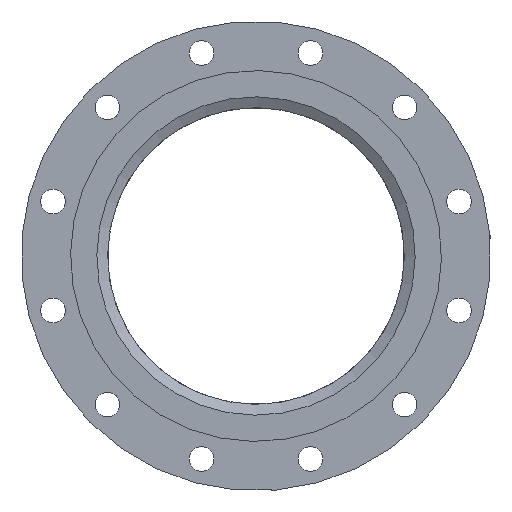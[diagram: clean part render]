
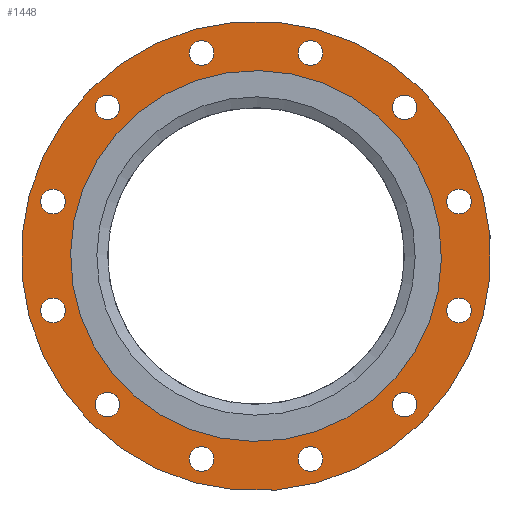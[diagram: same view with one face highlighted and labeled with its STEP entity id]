
A CAD part, front view. The second image highlights one B-rep face of the part: STEP entity #1448.
In plain terms, the highlighted planar face has unit normal (0, -1, 0).
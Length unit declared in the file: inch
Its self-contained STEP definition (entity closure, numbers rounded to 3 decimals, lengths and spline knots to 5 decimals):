
#50=PLANE('',#1590);
#128=FACE_BOUND('',#413,.T.);
#129=FACE_BOUND('',#414,.T.);
#130=FACE_BOUND('',#415,.T.);
#131=FACE_BOUND('',#416,.T.);
#132=FACE_BOUND('',#417,.T.);
#133=FACE_BOUND('',#418,.T.);
#134=FACE_BOUND('',#419,.T.);
#135=FACE_BOUND('',#420,.T.);
#136=FACE_BOUND('',#421,.T.);
#137=FACE_BOUND('',#422,.T.);
#138=FACE_BOUND('',#423,.T.);
#139=FACE_BOUND('',#424,.T.);
#140=FACE_BOUND('',#425,.T.);
#261=FACE_OUTER_BOUND('',#412,.T.);
#412=EDGE_LOOP('',(#1077));
#413=EDGE_LOOP('',(#1078));
#414=EDGE_LOOP('',(#1079));
#415=EDGE_LOOP('',(#1080));
#416=EDGE_LOOP('',(#1081));
#417=EDGE_LOOP('',(#1082));
#418=EDGE_LOOP('',(#1083));
#419=EDGE_LOOP('',(#1084));
#420=EDGE_LOOP('',(#1085));
#421=EDGE_LOOP('',(#1086));
#422=EDGE_LOOP('',(#1087));
#423=EDGE_LOOP('',(#1088));
#424=EDGE_LOOP('',(#1089));
#425=EDGE_LOOP('',(#1090));
#649=CIRCLE('',#1591,9.5);
#650=CIRCLE('',#1592,0.5);
#651=CIRCLE('',#1593,0.5);
#652=CIRCLE('',#1594,0.5);
#653=CIRCLE('',#1595,0.5);
#654=CIRCLE('',#1596,0.5);
#655=CIRCLE('',#1597,0.5);
#656=CIRCLE('',#1598,0.5);
#657=CIRCLE('',#1599,0.5);
#658=CIRCLE('',#1600,0.5);
#659=CIRCLE('',#1601,0.5);
#660=CIRCLE('',#1602,0.5);
#661=CIRCLE('',#1603,0.5);
#662=CIRCLE('',#1604,7.5);
#782=VERTEX_POINT('',#2351);
#783=VERTEX_POINT('',#2353);
#784=VERTEX_POINT('',#2355);
#785=VERTEX_POINT('',#2357);
#786=VERTEX_POINT('',#2359);
#787=VERTEX_POINT('',#2361);
#788=VERTEX_POINT('',#2363);
#789=VERTEX_POINT('',#2365);
#790=VERTEX_POINT('',#2367);
#791=VERTEX_POINT('',#2369);
#792=VERTEX_POINT('',#2371);
#793=VERTEX_POINT('',#2373);
#794=VERTEX_POINT('',#2375);
#795=VERTEX_POINT('',#2377);
#915=EDGE_CURVE('',#782,#782,#649,.T.);
#916=EDGE_CURVE('',#783,#783,#650,.T.);
#917=EDGE_CURVE('',#784,#784,#651,.T.);
#918=EDGE_CURVE('',#785,#785,#652,.T.);
#919=EDGE_CURVE('',#786,#786,#653,.T.);
#920=EDGE_CURVE('',#787,#787,#654,.T.);
#921=EDGE_CURVE('',#788,#788,#655,.T.);
#922=EDGE_CURVE('',#789,#789,#656,.T.);
#923=EDGE_CURVE('',#790,#790,#657,.T.);
#924=EDGE_CURVE('',#791,#791,#658,.T.);
#925=EDGE_CURVE('',#792,#792,#659,.T.);
#926=EDGE_CURVE('',#793,#793,#660,.T.);
#927=EDGE_CURVE('',#794,#794,#661,.T.);
#928=EDGE_CURVE('',#795,#795,#662,.T.);
#1077=ORIENTED_EDGE('',*,*,#915,.T.);
#1078=ORIENTED_EDGE('',*,*,#916,.T.);
#1079=ORIENTED_EDGE('',*,*,#917,.T.);
#1080=ORIENTED_EDGE('',*,*,#918,.T.);
#1081=ORIENTED_EDGE('',*,*,#919,.T.);
#1082=ORIENTED_EDGE('',*,*,#920,.T.);
#1083=ORIENTED_EDGE('',*,*,#921,.T.);
#1084=ORIENTED_EDGE('',*,*,#922,.T.);
#1085=ORIENTED_EDGE('',*,*,#923,.T.);
#1086=ORIENTED_EDGE('',*,*,#924,.T.);
#1087=ORIENTED_EDGE('',*,*,#925,.T.);
#1088=ORIENTED_EDGE('',*,*,#926,.T.);
#1089=ORIENTED_EDGE('',*,*,#927,.T.);
#1090=ORIENTED_EDGE('',*,*,#928,.F.);
#1448=ADVANCED_FACE('',(#261,#128,#129,#130,#131,#132,#133,#134,#135,#136,
#137,#138,#139,#140),#50,.T.);
#1590=AXIS2_PLACEMENT_3D('',#2350,#1883,#1884);
#1591=AXIS2_PLACEMENT_3D('',#2352,#1885,#1886);
#1592=AXIS2_PLACEMENT_3D('',#2354,#1887,#1888);
#1593=AXIS2_PLACEMENT_3D('',#2356,#1889,#1890);
#1594=AXIS2_PLACEMENT_3D('',#2358,#1891,#1892);
#1595=AXIS2_PLACEMENT_3D('',#2360,#1893,#1894);
#1596=AXIS2_PLACEMENT_3D('',#2362,#1895,#1896);
#1597=AXIS2_PLACEMENT_3D('',#2364,#1897,#1898);
#1598=AXIS2_PLACEMENT_3D('',#2366,#1899,#1900);
#1599=AXIS2_PLACEMENT_3D('',#2368,#1901,#1902);
#1600=AXIS2_PLACEMENT_3D('',#2370,#1903,#1904);
#1601=AXIS2_PLACEMENT_3D('',#2372,#1905,#1906);
#1602=AXIS2_PLACEMENT_3D('',#2374,#1907,#1908);
#1603=AXIS2_PLACEMENT_3D('',#2376,#1909,#1910);
#1604=AXIS2_PLACEMENT_3D('',#2378,#1911,#1912);
#1883=DIRECTION('center_axis',(0.,-1.,0.));
#1884=DIRECTION('ref_axis',(-0.966,0.,0.259));
#1885=DIRECTION('center_axis',(0.,-1.,0.));
#1886=DIRECTION('ref_axis',(-0.966,0.,0.259));
#1887=DIRECTION('center_axis',(0.,1.,0.));
#1888=DIRECTION('ref_axis',(-0.966,0.,-0.259));
#1889=DIRECTION('center_axis',(0.,1.,0.));
#1890=DIRECTION('ref_axis',(-0.707,0.,-0.707));
#1891=DIRECTION('center_axis',(0.,1.,0.));
#1892=DIRECTION('ref_axis',(-0.259,0.,-0.966));
#1893=DIRECTION('center_axis',(0.,1.,0.));
#1894=DIRECTION('ref_axis',(0.259,0.,-0.966));
#1895=DIRECTION('center_axis',(0.,1.,0.));
#1896=DIRECTION('ref_axis',(0.707,0.,-0.707));
#1897=DIRECTION('center_axis',(0.,1.,0.));
#1898=DIRECTION('ref_axis',(0.966,0.,-0.259));
#1899=DIRECTION('center_axis',(0.,1.,0.));
#1900=DIRECTION('ref_axis',(0.966,0.,0.259));
#1901=DIRECTION('center_axis',(0.,1.,0.));
#1902=DIRECTION('ref_axis',(0.707,0.,0.707));
#1903=DIRECTION('center_axis',(0.,1.,0.));
#1904=DIRECTION('ref_axis',(0.259,0.,0.966));
#1905=DIRECTION('center_axis',(0.,1.,0.));
#1906=DIRECTION('ref_axis',(-0.259,0.,0.966));
#1907=DIRECTION('center_axis',(0.,1.,0.));
#1908=DIRECTION('ref_axis',(-0.707,0.,0.707));
#1909=DIRECTION('center_axis',(0.,1.,0.));
#1910=DIRECTION('ref_axis',(-0.966,0.,0.259));
#1911=DIRECTION('center_axis',(0.,-1.,0.));
#1912=DIRECTION('ref_axis',(-0.857,0.,0.515));
#2350=CARTESIAN_POINT('Origin',(0.,0.5,
0.));
#2351=CARTESIAN_POINT('',(9.1763,0.5,-2.45878));
#2352=CARTESIAN_POINT('Origin',(0.,0.5,
0.));
#2353=CARTESIAN_POINT('',(1.717,0.5,-8.33978));
#2354=CARTESIAN_POINT('Origin',(2.19996,0.5,-8.21037));
#2355=CARTESIAN_POINT('',(5.65685,0.5,-6.36396));
#2356=CARTESIAN_POINT('Origin',(6.01041,0.5,-6.01041));
#2357=CARTESIAN_POINT('',(8.08096,0.5,-2.68292));
#2358=CARTESIAN_POINT('Origin',(8.21037,0.5,-2.19996));
#2359=CARTESIAN_POINT('',(8.33978,0.5,1.717));
#2360=CARTESIAN_POINT('Origin',(8.21037,0.5,2.19996));
#2361=CARTESIAN_POINT('',(6.36396,0.5,5.65685));
#2362=CARTESIAN_POINT('Origin',(6.01041,0.5,6.01041));
#2363=CARTESIAN_POINT('',(2.68292,0.5,8.08096));
#2364=CARTESIAN_POINT('Origin',(2.19996,0.5,8.21037));
#2365=CARTESIAN_POINT('',(-1.717,0.5,8.33978));
#2366=CARTESIAN_POINT('Origin',(-2.19996,0.5,8.21037));
#2367=CARTESIAN_POINT('',(-5.65685,0.5,6.36396));
#2368=CARTESIAN_POINT('Origin',(-6.01041,0.5,6.01041));
#2369=CARTESIAN_POINT('',(-8.08096,0.5,2.68292));
#2370=CARTESIAN_POINT('Origin',(-8.21037,0.5,2.19996));
#2371=CARTESIAN_POINT('',(-8.33978,0.5,-1.717));
#2372=CARTESIAN_POINT('Origin',(-8.21037,0.5,-2.19996));
#2373=CARTESIAN_POINT('',(-6.36396,0.5,-5.65685));
#2374=CARTESIAN_POINT('Origin',(-6.01041,0.5,-6.01041));
#2375=CARTESIAN_POINT('',(-2.68292,0.5,-8.08096));
#2376=CARTESIAN_POINT('Origin',(-2.19996,0.5,-8.21037));
#2377=CARTESIAN_POINT('',(6.43076,0.5,-3.85945));
#2378=CARTESIAN_POINT('Origin',(0.,0.5,0.));
